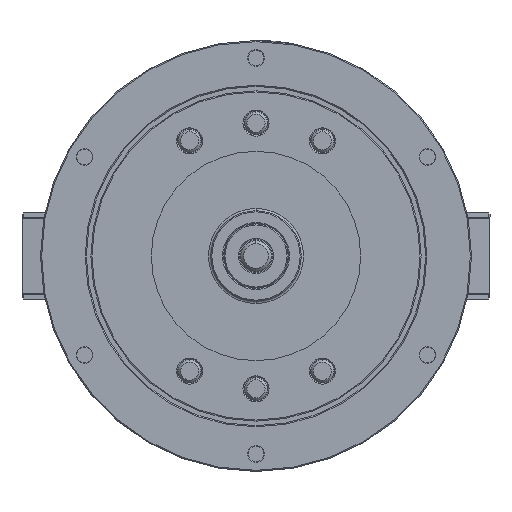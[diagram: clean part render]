
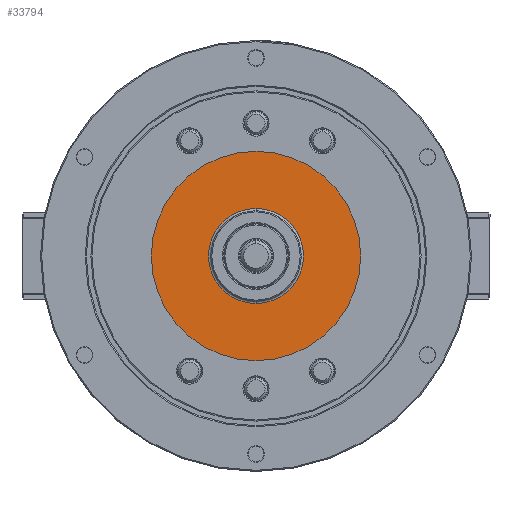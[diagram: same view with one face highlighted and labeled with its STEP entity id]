
A CAD part, left-side view. The second image highlights one B-rep face of the part: STEP entity #33794.
In plain terms, the highlighted planar face has unit normal (-1, 0, 0).
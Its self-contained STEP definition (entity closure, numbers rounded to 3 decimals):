
#4650 = VERTEX_POINT ( 'NONE', #29106 ) ;
#4963 = EDGE_CURVE ( 'NONE', #44653, #32711, #38351, .T. ) ;
#5413 = CIRCLE ( 'NONE', #24911, 42. ) ;
#7050 = EDGE_CURVE ( 'NONE', #32711, #44653, #9042, .T. ) ;
#8899 = EDGE_CURVE ( 'NONE', #4650, #16642, #38213, .T. ) ;
#9042 = CIRCLE ( 'NONE', #38279, 92.5 ) ;
#9844 = CARTESIAN_POINT ( 'NONE',  ( -111.5, 0., 0. ) ) ;
#10334 = DIRECTION ( 'NONE',  ( 1., 0., 0. ) ) ;
#11058 = DIRECTION ( 'NONE',  ( 0., 1., 0. ) ) ;
#12175 = CARTESIAN_POINT ( 'NONE',  ( -111.5, -92.5, 0. ) ) ;
#14348 = DIRECTION ( 'NONE',  ( 0., 0., -1. ) ) ;
#14409 = DIRECTION ( 'NONE',  ( -1., 0., 0. ) ) ;
#14499 = CARTESIAN_POINT ( 'NONE',  ( -111.5, 0., 0. ) ) ;
#16642 = VERTEX_POINT ( 'NONE', #21198 ) ;
#16770 = ORIENTED_EDGE ( 'NONE', *, *, #45708, .F. ) ;
#18266 = ORIENTED_EDGE ( 'NONE', *, *, #8899, .F. ) ;
#19463 = AXIS2_PLACEMENT_3D ( 'NONE', #9844, #10334, #11058 ) ;
#20329 = CARTESIAN_POINT ( 'NONE',  ( -111.5, 0., 0. ) ) ;
#20471 = DIRECTION ( 'NONE',  ( 0., 1., 0. ) ) ;
#20475 = PLANE ( 'NONE',  #27005 ) ;
#20614 = CARTESIAN_POINT ( 'NONE',  ( -111.5, -92.5, 0. ) ) ;
#21198 = CARTESIAN_POINT ( 'NONE',  ( -111.5, 0., -42. ) ) ;
#22554 = CARTESIAN_POINT ( 'NONE',  ( -111.5, 92.5, 0. ) ) ;
#23093 = FACE_BOUND ( 'NONE', #46129, .T. ) ;
#23151 = DIRECTION ( 'NONE',  ( 1., 0., 0. ) ) ;
#24010 = DIRECTION ( 'NONE',  ( 0., 0., -1. ) ) ;
#24116 = ORIENTED_EDGE ( 'NONE', *, *, #4963, .F. ) ;
#24911 = AXIS2_PLACEMENT_3D ( 'NONE', #20329, #45311, #24010 ) ;
#27005 = AXIS2_PLACEMENT_3D ( 'NONE', #20614, #23151, #20471 ) ;
#29106 = CARTESIAN_POINT ( 'NONE',  ( -111.5, 0., 42. ) ) ;
#32711 = VERTEX_POINT ( 'NONE', #22554 ) ;
#33794 = ADVANCED_FACE ( 'NONE', ( #23093, #42163 ), #20475, .F. ) ;
#38213 = CIRCLE ( 'NONE', #44737, 42. ) ;
#38279 = AXIS2_PLACEMENT_3D ( 'NONE', #45300, #45268, #45156 ) ;
#38351 = CIRCLE ( 'NONE', #19463, 92.5 ) ;
#40831 = EDGE_LOOP ( 'NONE', ( #45555, #24116 ) ) ;
#42163 = FACE_OUTER_BOUND ( 'NONE', #40831, .T. ) ;
#44653 = VERTEX_POINT ( 'NONE', #12175 ) ;
#44737 = AXIS2_PLACEMENT_3D ( 'NONE', #14499, #14409, #14348 ) ;
#45156 = DIRECTION ( 'NONE',  ( 0., 1., 0. ) ) ;
#45268 = DIRECTION ( 'NONE',  ( 1., 0., 0. ) ) ;
#45300 = CARTESIAN_POINT ( 'NONE',  ( -111.5, 0., 0. ) ) ;
#45311 = DIRECTION ( 'NONE',  ( -1., 0., 0. ) ) ;
#45555 = ORIENTED_EDGE ( 'NONE', *, *, #7050, .F. ) ;
#45708 = EDGE_CURVE ( 'NONE', #16642, #4650, #5413, .T. ) ;
#46129 = EDGE_LOOP ( 'NONE', ( #16770, #18266 ) ) ;
